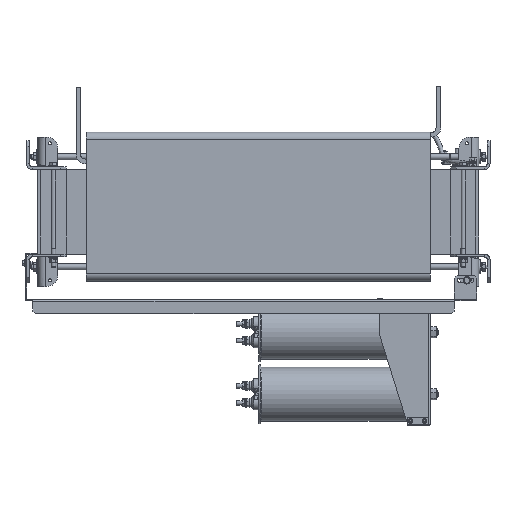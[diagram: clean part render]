
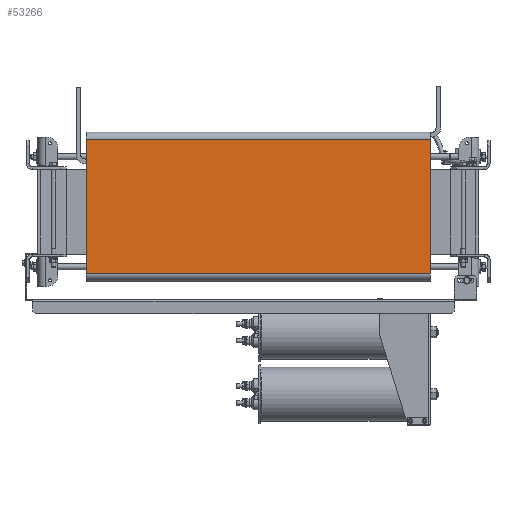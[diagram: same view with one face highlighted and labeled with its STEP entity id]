
A CAD part, left-side view. The second image highlights one B-rep face of the part: STEP entity #53266.
In plain terms, the highlighted planar face has unit normal (-1, 0, 0).
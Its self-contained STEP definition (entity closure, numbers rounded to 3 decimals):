
#2652=PLANE('',#57563);
#5074=FACE_OUTER_BOUND('',#8156,.T.);
#8156=EDGE_LOOP('',(#41956,#41957,#41958,#41959));
#12395=LINE('',#87478,#16848);
#12396=LINE('',#87484,#16849);
#12397=LINE('',#87485,#16850);
#12398=LINE('',#87486,#16851);
#16848=VECTOR('',#68448,10.);
#16849=VECTOR('',#68455,10.);
#16850=VECTOR('',#68456,10.);
#16851=VECTOR('',#68457,10.);
#23910=VERTEX_POINT('',#87476);
#23911=VERTEX_POINT('',#87477);
#23912=VERTEX_POINT('',#87482);
#23913=VERTEX_POINT('',#87483);
#30430=EDGE_CURVE('',#23910,#23911,#12395,.T.);
#30433=EDGE_CURVE('',#23912,#23913,#12396,.T.);
#30434=EDGE_CURVE('',#23910,#23912,#12397,.T.);
#30435=EDGE_CURVE('',#23913,#23911,#12398,.T.);
#41956=ORIENTED_EDGE('',*,*,#30433,.F.);
#41957=ORIENTED_EDGE('',*,*,#30434,.F.);
#41958=ORIENTED_EDGE('',*,*,#30430,.T.);
#41959=ORIENTED_EDGE('',*,*,#30435,.F.);
#53266=ADVANCED_FACE('',(#5074),#2652,.T.);
#57563=AXIS2_PLACEMENT_3D('',#87481,#68453,#68454);
#68448=DIRECTION('',(0.,-1.,0.));
#68453=DIRECTION('center_axis',(-1.,0.,0.));
#68454=DIRECTION('ref_axis',(0.,0.,1.));
#68455=DIRECTION('',(0.,-1.,0.));
#68456=DIRECTION('',(0.,0.,1.));
#68457=DIRECTION('',(0.,0.,-1.));
#87476=CARTESIAN_POINT('',(-203.828,305.,-109.858));
#87477=CARTESIAN_POINT('',(-203.828,-305.,-109.858));
#87478=CARTESIAN_POINT('',(-203.828,0.,-109.858));
#87481=CARTESIAN_POINT('Origin',(-203.828,0.,-109.858));
#87482=CARTESIAN_POINT('',(-203.828,305.,128.358));
#87483=CARTESIAN_POINT('',(-203.828,-305.,128.358));
#87484=CARTESIAN_POINT('',(-203.828,0.,128.358));
#87485=CARTESIAN_POINT('',(-203.828,305.,128.358));
#87486=CARTESIAN_POINT('',(-203.828,-305.,128.358));
